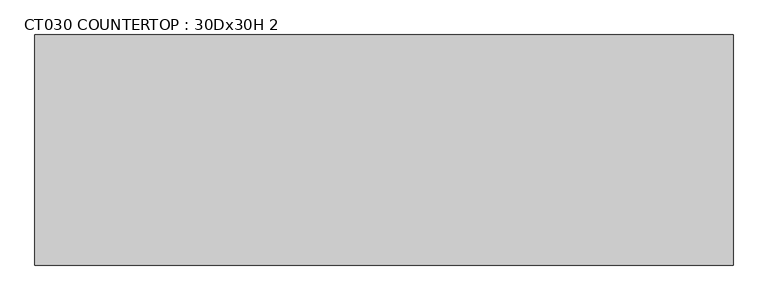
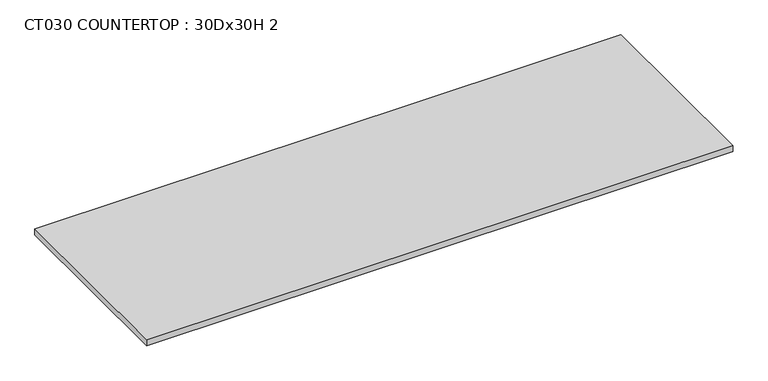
"""IFC4 building model written with IfcOpenShell, lengths in millimetres: furniture geometry, CT030 COUNTERTOP : 30Dx30H 2."""

from ifc_helpers import new_model, si_unit, frame, origin, place, context, project, spatial, polyline, outline, extrude, source, transform, mapped, element, save


def ct030_countertop_30dx30h_2_7152484d(model_context):
    return source(origin(), model_context, "Body", "SweptSolid", [
        extrude(outline(polyline([(1110.9377049, -462.6), (1110.9377049, -1224.6), (-1200.4622951, -1224.6), (-1200.4622951, -462.6), (1110.9377049, -462.6)])), frame((0.0, 0.0, 736.6), z_axis=(0.0, 0.0, 1.0), x_axis=(1.0, 0.0, 0.0)), (0.0, 0.0, 1.0), 25.4),
    ])


if __name__ == "__main__":
    model = new_model("IFC4")
    model_context = context("Model", 3, world=origin())
    ifc_project = project(units=[si_unit("LENGTHUNIT", "METRE", prefix="MILLI")], contexts=[model_context])
    site = spatial("IfcSite", under=ifc_project)
    building = spatial("IfcBuilding", under=site)
    placement = place(None, origin())
    ct030_countertop_30dx30h_2_shape = ct030_countertop_30dx30h_2_7152484d(model_context)
    element("IfcFurniture", 1, ObjectType="CT030 COUNTERTOP : 30Dx30H 2", at=placement, inside=building, context=model_context, shape_type="MappedRepresentation", body=[
        mapped(ct030_countertop_30dx30h_2_shape, transform((0.0, 0.0, 0.0), x_axis=(1.0, 0.0, 0.0), y_axis=(0.0, 1.0, 0.0), z_axis=(0.0, 0.0, 1.0))),
    ])
    save(model, "model.ifc")
